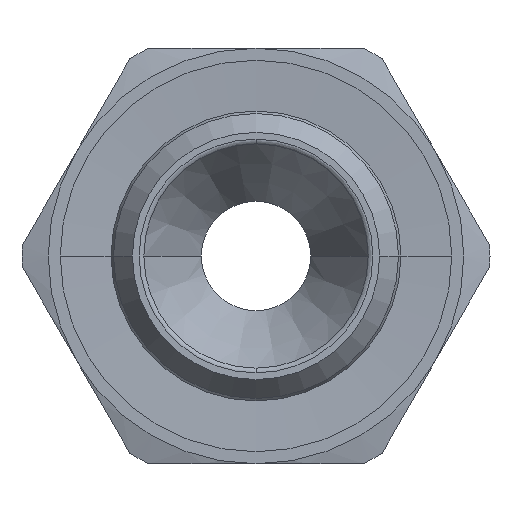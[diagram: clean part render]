
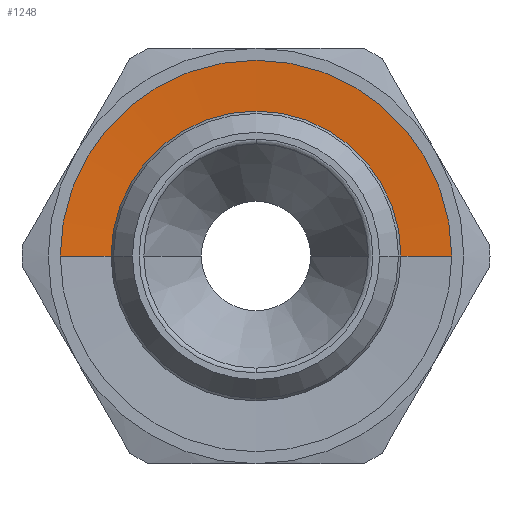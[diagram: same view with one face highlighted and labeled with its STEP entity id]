
A CAD part, left-side view. The second image highlights one B-rep face of the part: STEP entity #1248.
In plain terms, the highlighted conical face has half-angle 87 degrees and reference radius 7.787 mm.
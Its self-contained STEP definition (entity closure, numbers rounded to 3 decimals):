
#1174=CARTESIAN_POINT('',(0.,-8.95,5.));
#1175=VERTEX_POINT('',#1174);
#1184=CARTESIAN_POINT('',(0.,8.95,5.));
#1185=VERTEX_POINT('',#1184);
#1211=CARTESIAN_POINT('',(0.,0.,4.939));
#1212=DIRECTION('',(0.,0.,1.0));
#1213=DIRECTION('',(0.0,-1.0,0.0));
#1214=AXIS2_PLACEMENT_3D('',#1211,#1212,#1213);
#1215=CONICAL_SURFACE('',#1214,7.787,87.);
#1216=CARTESIAN_POINT('',(0.,-6.625,4.878));
#1217=VERTEX_POINT('',#1216);
#1218=CARTESIAN_POINT('',(0.,-8.95,5.));
#1219=DIRECTION('',(0.,0.999,-0.052));
#1220=VECTOR('',#1219,2.328);
#1221=LINE('',#1218,#1220);
#1222=EDGE_CURVE('',#1175,#1217,#1221,.T.);
#1223=ORIENTED_EDGE('',*,*,#1222,.F.);
#1224=CARTESIAN_POINT('',(0.,0.,5.0));
#1225=DIRECTION('',(0.0,0.0,-1.0));
#1226=DIRECTION('',(0.0,-1.0,0.0));
#1227=AXIS2_PLACEMENT_3D('',#1224,#1225,#1226);
#1228=CIRCLE('',#1227,8.95);
#1229=EDGE_CURVE('',#1185,#1175,#1228,.T.);
#1230=ORIENTED_EDGE('',*,*,#1229,.F.);
#1231=CARTESIAN_POINT('',(0.,6.625,4.878));
#1232=VERTEX_POINT('',#1231);
#1233=CARTESIAN_POINT('',(0.,6.625,4.878));
#1234=DIRECTION('',(0.,0.999,0.052));
#1235=VECTOR('',#1234,2.328);
#1236=LINE('',#1233,#1235);
#1237=EDGE_CURVE('',#1232,#1185,#1236,.T.);
#1238=ORIENTED_EDGE('',*,*,#1237,.F.);
#1239=CARTESIAN_POINT('',(0.,0.,4.878));
#1240=DIRECTION('',(0.0,0.0,-1.0));
#1241=DIRECTION('',(0.0,-1.0,0.0));
#1242=AXIS2_PLACEMENT_3D('',#1239,#1240,#1241);
#1243=CIRCLE('',#1242,6.625);
#1244=EDGE_CURVE('',#1232,#1217,#1243,.T.);
#1245=ORIENTED_EDGE('',*,*,#1244,.T.);
#1246=EDGE_LOOP('',(#1223,#1230,#1238,#1245));
#1247=FACE_OUTER_BOUND('',#1246,.T.);
#1248=ADVANCED_FACE('',(#1247),#1215,.F.);
